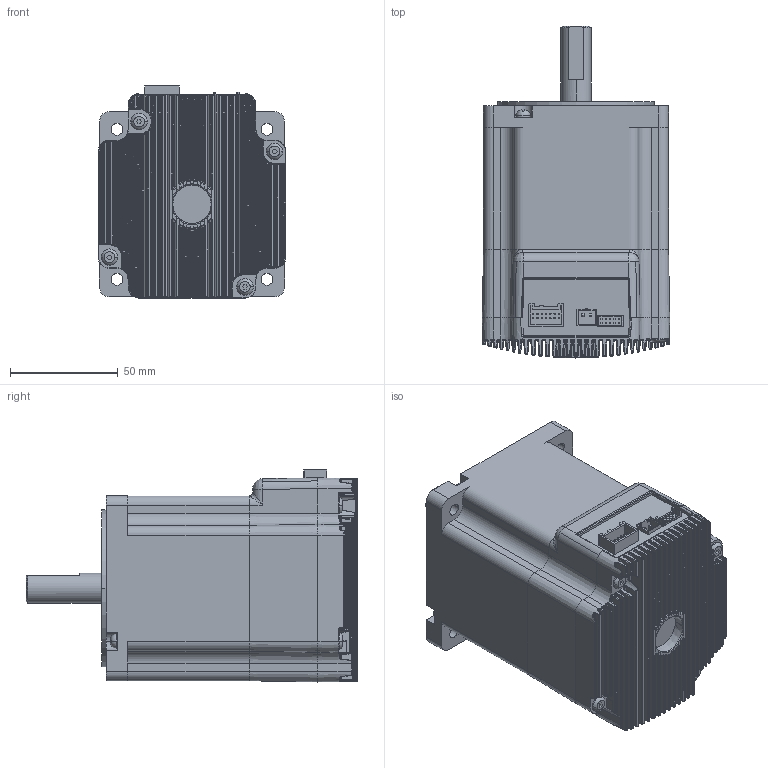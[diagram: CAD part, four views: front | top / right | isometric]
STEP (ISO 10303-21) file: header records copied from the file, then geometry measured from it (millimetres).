
FILE_DESCRIPTION(('MDrive34Plus Double Stack'),'1');
FILE_NAME('MDrive34Plus Double Stack.stp',' ',('Kubotek KeyCreator 7.0.1'),('Intelligent Motion Systems, Inc., Paul Bordua, C.I.D.'),'ACIS Interop R17','Kubotek KeyCreator V7.0.1 (6402)','Kubotek USA, Inc.');
FILE_SCHEMA(('automotive_design'));
Length unit declared in the file: inch
Products named in the file (1): New 3D Block[1]
Bounding box: 86.96 x 153.92 x 98.34 mm (x, y, z)
Volume: 777360.7 mm3; surface area: 80735.5 mm2
Topology: 1 solids, 1 shells, 1697 faces, 4084 edges, 2426 vertices
Faces by surface type: cylinder 582, plane 435, bspline 416, sphere 132, cone 83, torus 49
Entity records: 138943 total; most frequent: CARTESIAN_POINT 51160, PRESENTATION_STYLE_ASSIGNMENT 9699, COLOUR_RGB 9699, STYLED_ITEM 8199, ORIENTED_EDGE 8150, DIRECTION 6227, CURVE_STYLE 5575, DRAUGHTING_PRE_DEFINED_CURVE_FONT 5497
